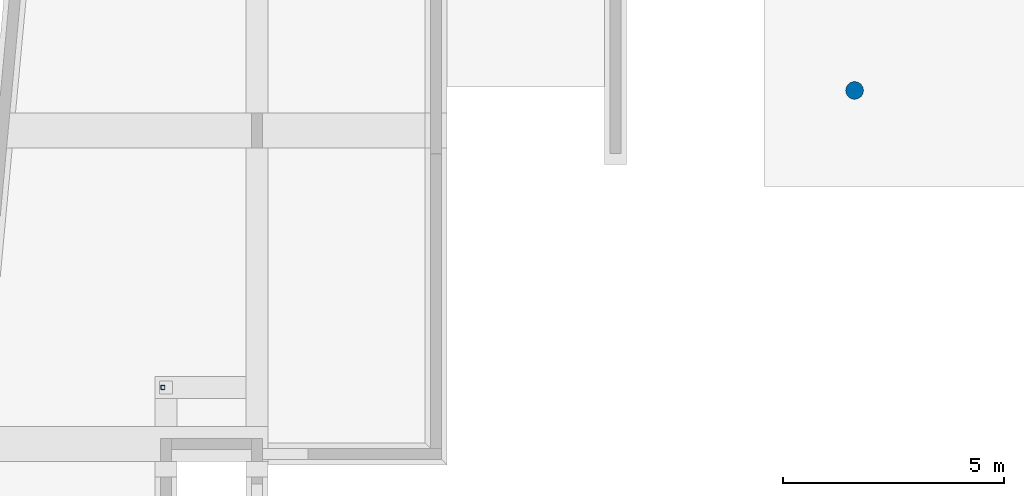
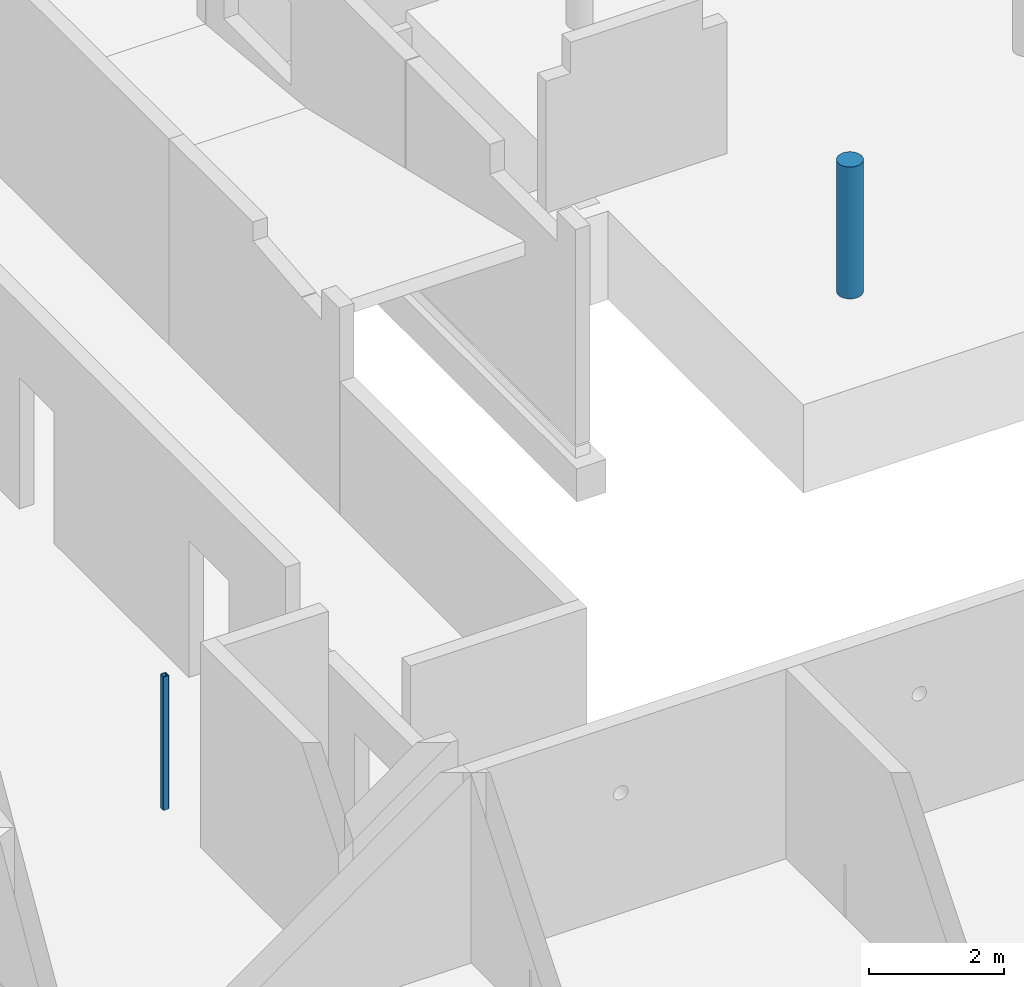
# One storey, part 13 of 60: 2 columns.
"""IFC2X3 building model written with IfcOpenShell, lengths in millimetres."""

from ifc_helpers import new_model, entity, si_unit, converted_unit, derived_unit, direction, frame, frame_2d, origin, place, context, subcontext, project, spatial, polyline, circle_curve, parameter, trimmed, segment, composite_curve, circle, outline, extrude, source, transform, mapped, material, type_object, type_shapes, element, save


model = new_model("IFC2X3")

# Units and contexts
model_context = context("Model", 3, precision=0.01, world=origin(), true_north=direction((6.12303176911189e-17, 1.0)))
body_context = subcontext(model_context, "Body", "Model", "MODEL_VIEW")
ifc_project = project(units=[si_unit("LENGTHUNIT", "METRE", prefix="MILLI"), si_unit("AREAUNIT", "SQUARE_METRE"), si_unit("VOLUMEUNIT", "CUBIC_METRE"), converted_unit("PLANEANGLEUNIT", "DEGREE", entity("IfcRatioMeasure", 0.0174532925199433), si_unit("PLANEANGLEUNIT", "RADIAN"), dimensions=[0, 0, 0, 0, 0, 0, 0]), si_unit("MASSUNIT", "GRAM", prefix="KILO"), derived_unit("MASSDENSITYUNIT", [(si_unit("MASSUNIT", "GRAM", prefix="KILO"), 1), (si_unit("LENGTHUNIT", "METRE"), -3)]), si_unit("TIMEUNIT", "SECOND"), si_unit("FREQUENCYUNIT", "HERTZ"), si_unit("THERMODYNAMICTEMPERATUREUNIT", "DEGREE_CELSIUS"), derived_unit("THERMALTRANSMITTANCEUNIT", [(si_unit("MASSUNIT", "GRAM", prefix="KILO"), 1), (si_unit("THERMODYNAMICTEMPERATUREUNIT", "KELVIN"), -1), (si_unit("TIMEUNIT", "SECOND"), -3)]), derived_unit("VOLUMETRICFLOWRATEUNIT", [(si_unit("LENGTHUNIT", "METRE"), 3), (si_unit("TIMEUNIT", "SECOND"), -1)]), si_unit("ELECTRICCURRENTUNIT", "AMPERE"), si_unit("ELECTRICVOLTAGEUNIT", "VOLT"), si_unit("POWERUNIT", "WATT"), si_unit("FORCEUNIT", "NEWTON", prefix="KILO"), si_unit("ILLUMINANCEUNIT", "LUX"), si_unit("LUMINOUSFLUXUNIT", "LUMEN"), si_unit("LUMINOUSINTENSITYUNIT", "CANDELA"), derived_unit("USERDEFINED", [(si_unit("MASSUNIT", "GRAM", prefix="KILO"), -1), (si_unit("LENGTHUNIT", "METRE"), -2), (si_unit("TIMEUNIT", "SECOND"), 3), (si_unit("LUMINOUSFLUXUNIT", "LUMEN"), 1)]), derived_unit("LINEARVELOCITYUNIT", [(si_unit("LENGTHUNIT", "METRE"), 1), (si_unit("TIMEUNIT", "SECOND"), -1)]), si_unit("PRESSUREUNIT", "PASCAL"), derived_unit("USERDEFINED", [(si_unit("LENGTHUNIT", "METRE"), -2), (si_unit("MASSUNIT", "GRAM", prefix="KILO"), 1), (si_unit("TIMEUNIT", "SECOND"), -2)])], contexts=[model_context])

# Site, building, storey
site_placement = place(None, origin())
site = spatial("IfcSite", under=ifc_project, at=site_placement, Name="Default", CompositionType="ELEMENT")
building_placement = place(site_placement, origin())
building = spatial("IfcBuilding", under=site, at=building_placement, Name="niet gebruiken", CompositionType="ELEMENT")
storey_placement = place(building_placement, origin())
storey = spatial("IfcBuildingStorey", under=building, at=storey_placement, Name="00 begane grond", CompositionType="ELEMENT", Elevation=0.0)

# Columns
ifc_material_1 = material(Name="NLRS_f2_beton prefab")
column_type_1 = type_object("IfcColumnType", Name="ø400", PredefinedType="COLUMN", material=ifc_material_1)
shared_shape_1 = source(origin(), body_context, "Body", "SweptSolid", [
    extrude(circle(Radius=200.0, at=frame_2d((1.69197988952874e-14, -3.02923644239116e-13), x_axis=(1.0, 0.0))), frame((0.0, 0.0, -170.0)), (0.0, 0.0, 1.0), 2390.00000000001),
])
type_shapes(column_type_1, [shared_shape_1])
column_1_placement = place(storey_placement, frame((21600.0, 20846.0, 0.0)))
element("IfcColumn", 1, at=column_1_placement, inside=storey, type_object=column_type_1, material=ifc_material_1, Name="NLRS_28. kolom rond_gen:ø400", ObjectType="ø400", context=body_context, shape_type="MappedRepresentation", body=[
    mapped(shared_shape_1, transform((0.0, 0.0, 0.0), scale=1.0)),
])
ifc_material_2 = material(Name="NLRS_h2_staal")
column_type_2 = type_object("IfcColumnType", Name="kolom buisprofiel koudgevormd vierkant RHSC_100x100x10", PredefinedType="COLUMN", material=ifc_material_2)
shared_shape_2 = source(origin(), body_context, "Body", "SweptSolid", [
    extrude(outline(composite_curve([segment(polyline([(-30.0, -50.0), (30.0, -50.0)]), True, "CONTINUOUS"), segment(trimmed(circle_curve(frame_2d((30.0, -30.0), x_axis=(-1.0, 0.0)), 20.0), [parameter(90.0)], [parameter(180.0)], True, "PARAMETER"), True, "CONTINUOUS"), segment(polyline([(50.0, -30.0), (50.0, 30.0)]), True, "CONTINUOUS"), segment(trimmed(circle_curve(frame_2d((30.0, 30.0), x_axis=(-1.0, 0.0)), 20.0), [parameter(180.0)], [parameter(270.0)], True, "PARAMETER"), True, "CONTINUOUS"), segment(polyline([(30.0, 50.0), (-30.0, 50.0)]), True, "CONTINUOUS"), segment(trimmed(circle_curve(frame_2d((-30.0, 30.0), x_axis=(-1.0, 0.0)), 20.0), [parameter(270.0)], [parameter(360.0)], True, "PARAMETER"), True, "CONTINUOUS"), segment(polyline([(-50.0, 30.0), (-50.0, -30.0)]), True, "CONTINUOUS"), segment(trimmed(circle_curve(frame_2d((-30.0, -30.0), x_axis=(-1.0, 0.0)), 20.0), [parameter(0.0)], [parameter(90.0000000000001)], True, "PARAMETER"), True, "CONTINUOUS")], self_intersect=False), holes=[composite_curve([segment(trimmed(circle_curve(frame_2d((-28.0, -28.0), x_axis=(-1.0, 0.0)), 12.0), [parameter(3.56222124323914e-13)], [parameter(90.0000000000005)], True, "PARAMETER"), False, "CONTINUOUS"), segment(polyline([(-40.0, -28.0), (-40.0, 28.0)]), True, "CONTINUOUS"), segment(trimmed(circle_curve(frame_2d((-28.0, 28.0), x_axis=(-1.0, 0.0)), 12.0), [parameter(270.0)], [parameter(0.0)], True, "PARAMETER"), False, "CONTINUOUS"), segment(polyline([(-28.0, 40.0), (28.0, 40.0)]), True, "CONTINUOUS"), segment(trimmed(circle_curve(frame_2d((28.0, 28.0), x_axis=(-1.0, 0.0)), 12.0), [parameter(180.0)], [parameter(270.0)], True, "PARAMETER"), False, "CONTINUOUS"), segment(polyline([(40.0, 28.0), (40.0, -28.0)]), True, "CONTINUOUS"), segment(trimmed(circle_curve(frame_2d((28.0, -28.0), x_axis=(-1.0, 0.0)), 12.0), [parameter(90.0)], [parameter(180.0)], True, "PARAMETER"), False, "CONTINUOUS"), segment(polyline([(28.0, -40.0), (-28.0, -40.0)]), True, "CONTINUOUS")], self_intersect=False)]), frame((5975.0, 14138.0, 0.0), z_axis=(0.0, 0.0, 1.0), x_axis=(-1.0, 0.0, 0.0)), (0.0, 0.0, 1.0), 2418.00000000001),
])
type_shapes(column_type_2, [shared_shape_2])
column_2_placement = place(storey_placement, origin())
element("IfcColumn", 2, at=column_2_placement, inside=storey, type_object=column_type_2, material=ifc_material_2, Name="NLRS_28.11_SCO_TLB_stalen kolom buisprofiel koudgevormd vierkant_gen:kolom buisprofiel koudgevormd vierkant RHSC_100x100x10", ObjectType="kolom buisprofiel koudgevormd vierkant RHSC_100x100x10", context=body_context, shape_type="MappedRepresentation", body=[
    mapped(shared_shape_2, transform((0.0, 0.0, 0.0), scale=1.0)),
])

save(model, "model.ifc")
